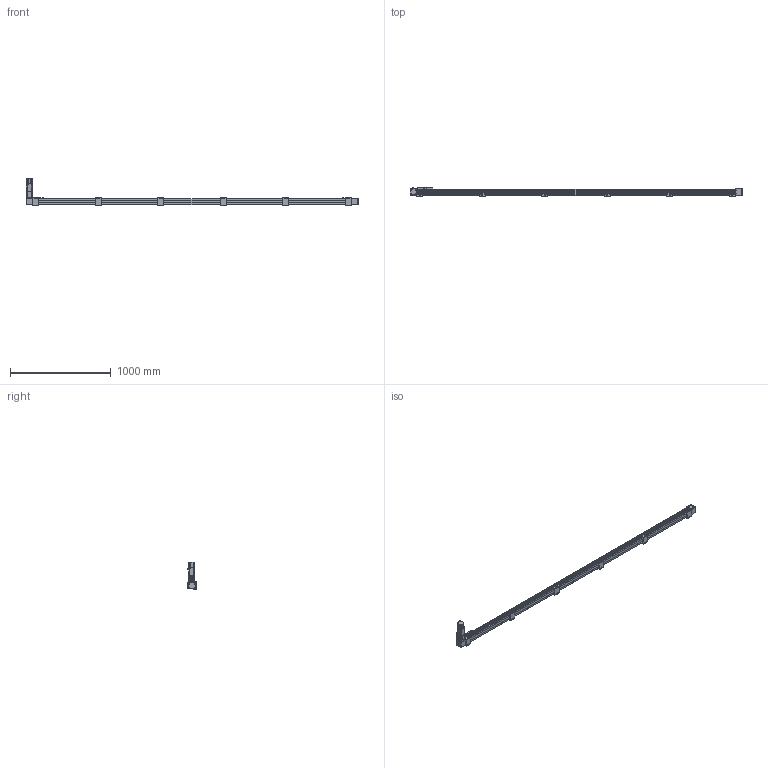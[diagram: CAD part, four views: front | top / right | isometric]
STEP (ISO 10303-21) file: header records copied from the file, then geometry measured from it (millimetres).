
FILE_DESCRIPTION(/* description */ ('STEP AP203'),/* implementation_level */ '2;1');
FILE_NAME(/* name */ 'SK60-P13-S3000-BL-T40-C1-N(0)',/* time_stamp */ '2023-04-06T03:38:26+02:00',/* author */ ('License CC BY-ND 4.0'),/* organization */ ('CADENAS'),/* preprocessor_version */ 'ST-DEVELOPER v19.3',/* originating_system */ 'PARTsolutions',/* authorisation */ ' ');
FILE_SCHEMA (('CONFIG_CONTROL_DESIGN'));
Length unit declared in the file: millimetre
Products named in the file (11): SK60-P13-S3000-BL-T40-C1-N(0); PSC140-sensor; SK60-S450_seat; SK60-S450-BL-C1_slider; SK60_body3; SK60_body6; SK60-BL_body2; T40-p1; SK60_body5; SK60_body4; SK60-S3000-BL-C1_body
Assembly tree (21 placements, depth 2):
  SK60-P13-S3000-BL-T40-C1-N(0)
    PSC140-sensor  x3
    SK60-S450_seat  x6
    SK60-S450-BL-C1_slider
    SK60_body3  x3
    SK60_body6  x2
    SK60-BL_body2  x2
    T40-p1
    SK60_body5
    SK60_body4
    SK60-S3000-BL-C1_body
Bounding box: 3300 x 90 x 278.2 mm (x, y, z)
Volume: 11781643.1 mm3; surface area: 1412505.4 mm2
Topology: 21 solids, 25 shells, 1010 faces, 2501 edges, 1650 vertices
Faces by surface type: plane 640, cylinder 330, cone 38, torus 2
Full cylindrical faces by diameter (mm): 2.8 x3, 3.3 x4, 4.2 x8, 4.5 x26, 4.6 x3, 4.917 x32, 5 x2, 5.478 x4, 5.5 x35, 6.5 x12, 8 x4, 8.5 x4, 9.988 x4, 10 x24, 13.556 x1, 14 x1, 14.586 x1, 19.692 x1, 38.432 x2, 43 x1, 44 x3, 47 x2, 50 x2
Entity records: 19403 total; most frequent: DIRECTION 3300, CARTESIAN_POINT 3293, ORIENTED_EDGE 3050, EDGE_CURVE 1525, AXIS2_PLACEMENT_3D 1104, LINE 1092, VECTOR 1092, VERTEX_POINT 1077
